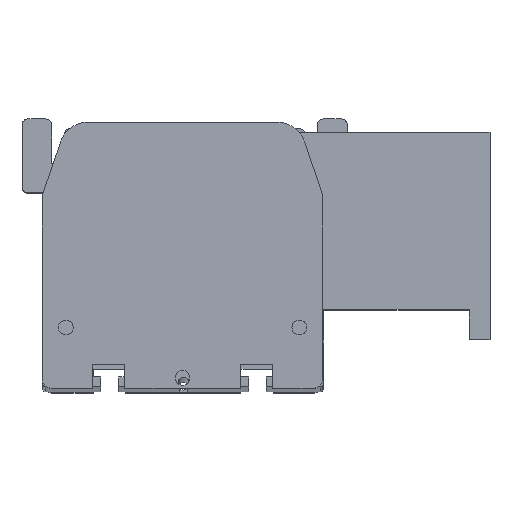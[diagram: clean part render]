
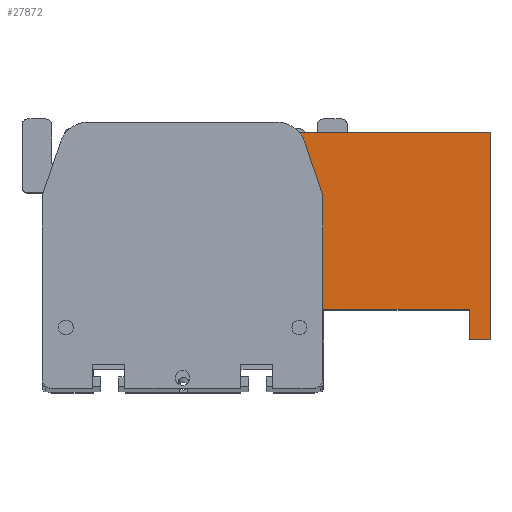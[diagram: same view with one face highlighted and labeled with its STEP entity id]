
A CAD part, top view. The second image highlights one B-rep face of the part: STEP entity #27872.
In plain terms, the highlighted planar face has unit normal (0, 0, 1) as drawn and (0, 1, 0) by its records, which use the part's own axes.
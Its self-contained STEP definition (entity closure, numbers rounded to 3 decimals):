
#1061 = ORIENTED_EDGE ( 'NONE', *, *, #11607, .F. ) ;
#1459 = EDGE_CURVE ( 'NONE', #28474, #22791, #2024, .T. ) ;
#1599 = ORIENTED_EDGE ( 'NONE', *, *, #3049, .T. ) ;
#2024 = LINE ( 'NONE', #3801, #20900 ) ;
#2161 = DIRECTION ( 'NONE',  ( 0., 0., 1. ) ) ;
#2169 = CARTESIAN_POINT ( 'NONE',  ( -25., 35., 60. ) ) ;
#2914 = CARTESIAN_POINT ( 'NONE',  ( 35., 35., 0. ) ) ;
#2976 = FACE_OUTER_BOUND ( 'NONE', #18424, .T. ) ;
#3049 = EDGE_CURVE ( 'NONE', #9690, #3222, #32142, .T. ) ;
#3066 = ORIENTED_EDGE ( 'NONE', *, *, #7694, .F. ) ;
#3222 = VERTEX_POINT ( 'NONE', #21129 ) ;
#3236 = AXIS2_PLACEMENT_3D ( 'NONE', #7417, #9983, #27909 ) ;
#3774 = EDGE_CURVE ( 'NONE', #6359, #9690, #26439, .T. ) ;
#3801 = CARTESIAN_POINT ( 'NONE',  ( -25., 35., 55. ) ) ;
#4929 = DIRECTION ( 'NONE',  ( 0., 0., -1. ) ) ;
#6359 = VERTEX_POINT ( 'NONE', #21776 ) ;
#6547 = ORIENTED_EDGE ( 'NONE', *, *, #24784, .F. ) ;
#7253 = DIRECTION ( 'NONE',  ( -1., 0., 0. ) ) ;
#7417 = CARTESIAN_POINT ( 'NONE',  ( -35., 35., 70. ) ) ;
#7694 = EDGE_CURVE ( 'NONE', #28474, #16814, #25747, .T. ) ;
#8350 = LINE ( 'NONE', #31874, #14379 ) ;
#9126 = ORIENTED_EDGE ( 'NONE', *, *, #32041, .T. ) ;
#9690 = VERTEX_POINT ( 'NONE', #2914 ) ;
#9983 = DIRECTION ( 'NONE',  ( 0., -1., 0. ) ) ;
#10746 = ORIENTED_EDGE ( 'NONE', *, *, #17325, .F. ) ;
#10931 = CARTESIAN_POINT ( 'NONE',  ( 35., 35., 70. ) ) ;
#11607 = EDGE_CURVE ( 'NONE', #6359, #18463, #20308, .T. ) ;
#12631 = CARTESIAN_POINT ( 'NONE',  ( -35., 35., 0. ) ) ;
#12822 = VECTOR ( 'NONE', #13519, 1000. ) ;
#13519 = DIRECTION ( 'NONE',  ( 0., 0., -1. ) ) ;
#13970 = CARTESIAN_POINT ( 'NONE',  ( 28., 35., 60. ) ) ;
#14379 = VECTOR ( 'NONE', #19096, 1000. ) ;
#16814 = VERTEX_POINT ( 'NONE', #24611 ) ;
#17325 = EDGE_CURVE ( 'NONE', #18509, #22791, #24857, .T. ) ;
#17590 = VECTOR ( 'NONE', #4929, 1000. ) ;
#18151 = VECTOR ( 'NONE', #30525, 1000. ) ;
#18424 = EDGE_LOOP ( 'NONE', ( #3066, #23485, #10746, #9126, #1061, #25540, #1599, #6547 ) ) ;
#18463 = VERTEX_POINT ( 'NONE', #21469 ) ;
#18509 = VERTEX_POINT ( 'NONE', #13970 ) ;
#19096 = DIRECTION ( 'NONE',  ( 0., 0., 1. ) ) ;
#20308 = LINE ( 'NONE', #24505, #27094 ) ;
#20312 = CARTESIAN_POINT ( 'NONE',  ( -35., 35., 70. ) ) ;
#20900 = VECTOR ( 'NONE', #2161, 1000. ) ;
#21129 = CARTESIAN_POINT ( 'NONE',  ( -35., 35., 0. ) ) ;
#21469 = CARTESIAN_POINT ( 'NONE',  ( 28., 35., 70. ) ) ;
#21776 = CARTESIAN_POINT ( 'NONE',  ( 35., 35., 70. ) ) ;
#22791 = VERTEX_POINT ( 'NONE', #2169 ) ;
#23485 = ORIENTED_EDGE ( 'NONE', *, *, #1459, .T. ) ;
#24396 = LINE ( 'NONE', #20312, #17590 ) ;
#24505 = CARTESIAN_POINT ( 'NONE',  ( -35., 35., 70. ) ) ;
#24611 = CARTESIAN_POINT ( 'NONE',  ( -35., 35., 55. ) ) ;
#24784 = EDGE_CURVE ( 'NONE', #16814, #3222, #24396, .T. ) ;
#24857 = LINE ( 'NONE', #26898, #30056 ) ;
#25339 = PLANE ( 'NONE',  #3236 ) ;
#25462 = CARTESIAN_POINT ( 'NONE',  ( -35., 35., 55. ) ) ;
#25540 = ORIENTED_EDGE ( 'NONE', *, *, #3774, .T. ) ;
#25747 = LINE ( 'NONE', #25462, #18151 ) ;
#26439 = LINE ( 'NONE', #10931, #12822 ) ;
#26898 = CARTESIAN_POINT ( 'NONE',  ( -35., 35., 60. ) ) ;
#27049 = DIRECTION ( 'NONE',  ( -1., 0., 0. ) ) ;
#27094 = VECTOR ( 'NONE', #27049, 1000. ) ;
#27872 = ADVANCED_FACE ( 'NONE', ( #2976 ), #25339, .F. ) ;
#27909 = DIRECTION ( 'NONE',  ( 1., 0., 0. ) ) ;
#28474 = VERTEX_POINT ( 'NONE', #30355 ) ;
#29497 = DIRECTION ( 'NONE',  ( -1., 0., 0. ) ) ;
#30056 = VECTOR ( 'NONE', #29497, 1000. ) ;
#30355 = CARTESIAN_POINT ( 'NONE',  ( -25., 35., 55. ) ) ;
#30525 = DIRECTION ( 'NONE',  ( -1., 0., 0. ) ) ;
#31346 = VECTOR ( 'NONE', #7253, 1000. ) ;
#31874 = CARTESIAN_POINT ( 'NONE',  ( 28., 35., 60. ) ) ;
#32041 = EDGE_CURVE ( 'NONE', #18509, #18463, #8350, .T. ) ;
#32142 = LINE ( 'NONE', #12631, #31346 ) ;
